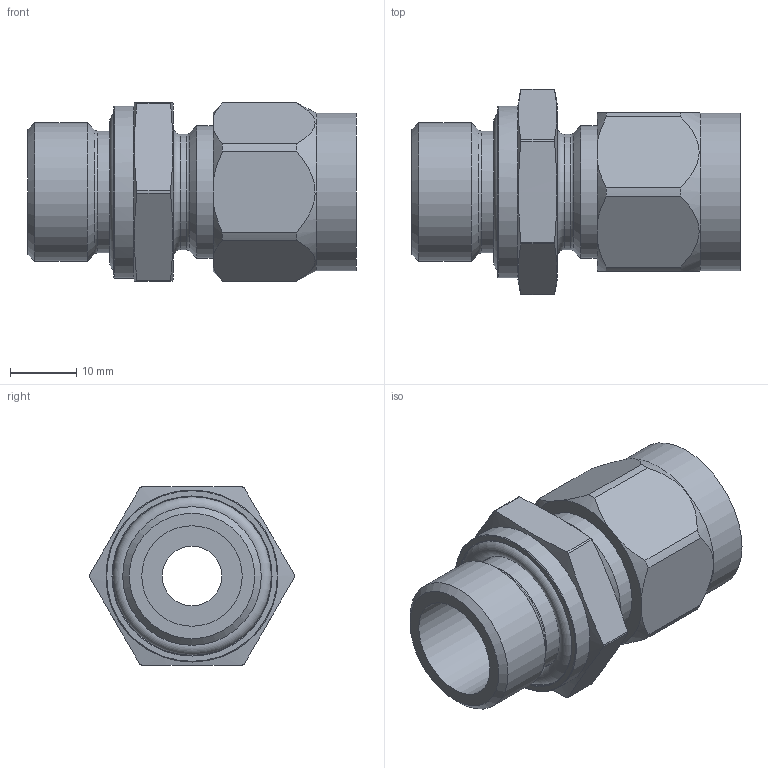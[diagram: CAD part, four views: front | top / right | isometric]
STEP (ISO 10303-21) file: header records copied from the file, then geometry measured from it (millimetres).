
FILE_DESCRIPTION(/* description */ (''),/* implementation_level */ '2;1');
FILE_NAME(/* name */ 'Durchgangsverschraubung_539746.stp',/* time_stamp */ '2019-08-05T10:20:15+02:00',/* author */ (''),/* organization */ (''),/* preprocessor_version */ 'ST-DEVELOPER v16',/* originating_system */ 'SIEMENS PLM Software NX 11.0',/* authorisation */ '');
FILE_SCHEMA (('AP203_CONFIGURATION_CONTROLLED_3D_DESIGN_OF_MECHANICAL_PARTS_AND_ASSEMBLIES_MIM_LF { 1 0 10303 403 2 1 2}'));
Length unit declared in the file: millimetre
Products named in the file (1): kien0D28D72Dqyt7
Bounding box: 49.6 x 31 x 27 mm (x, y, z)
Volume: 13829.4 mm3; surface area: 8309.2 mm2
Topology: 2 solids, 2 shells, 71 faces, 170 edges, 109 vertices
Faces by surface type: cylinder 24, plane 22, cone 17, torus 8
Full cylindrical faces by diameter (mm): 9 x1, 15 x1, 15.2 x2, 17.5 x1, 18.1 x1, 18.4 x1, 20 x1, 20.96 x1, 23.8 x1, 24 x1, 26 x1
Entity records: 1988 total; most frequent: CARTESIAN_POINT 417, DIRECTION 310, ORIENTED_EDGE 256, AXIS2_PLACEMENT_3D 140, EDGE_CURVE 128, EDGE_LOOP 110, VERTEX_POINT 99, FACE_BOUND 81
